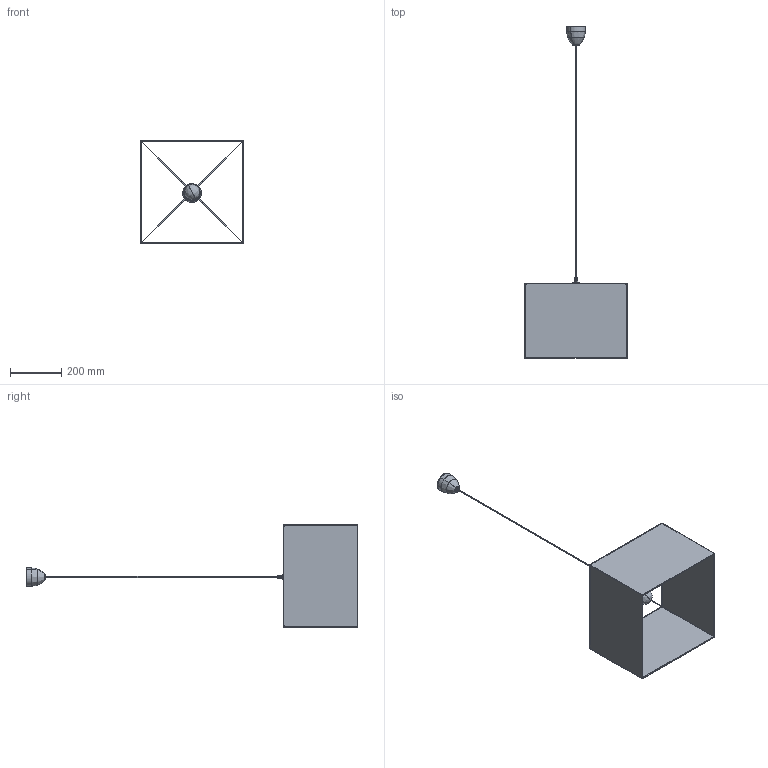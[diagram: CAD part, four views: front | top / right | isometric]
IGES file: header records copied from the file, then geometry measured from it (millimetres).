
Start section: SolidWorks IGES file using analytic representation for surfaces
Global section: file name: E:\3D lampy\Hotel\Hotel_5523.IGS; native system: SolidWorks 2016; preprocessor: SolidWorks 2016; author: Asia; date: 170929.121157; units: millimetre
Bounding box: 400 x 1293.19 x 400 mm (x, y, z)
Surface area: 1108723.8 mm2 (no closed solid volume)
Topology: 0 solids, 0 shells, 784 faces, 8979 edges, 8959 vertices
Faces by surface type: bspline 414, revolution 370
